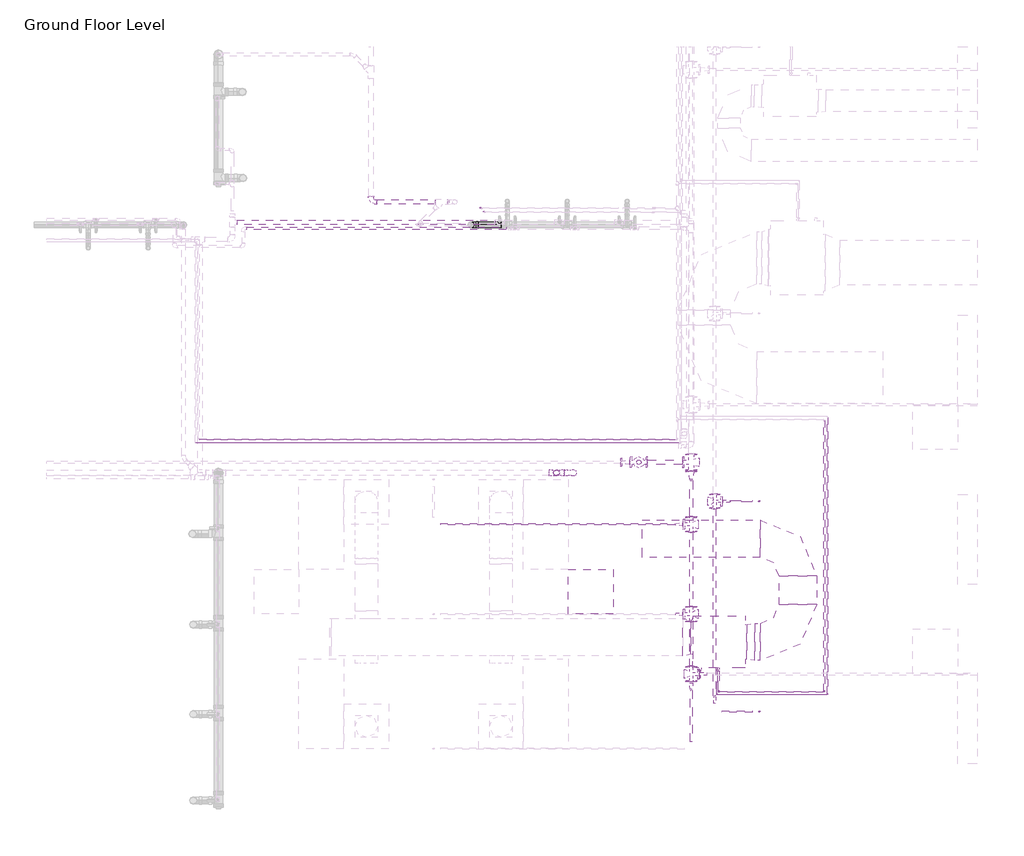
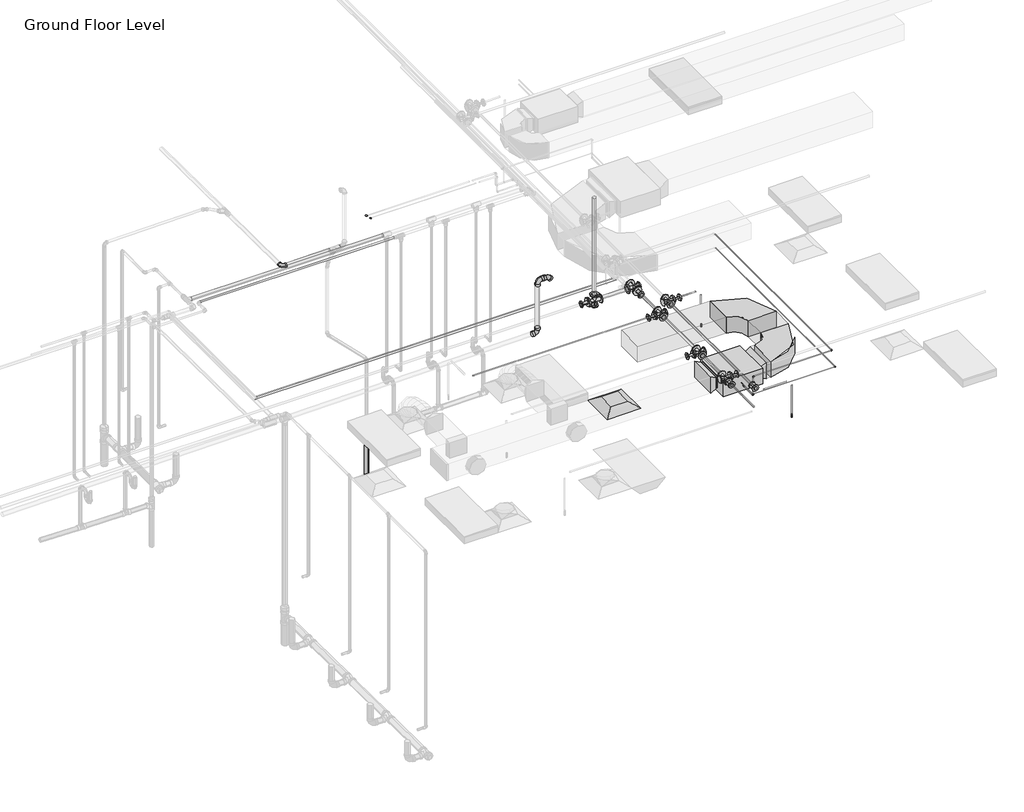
# One storey, part 15 of 74: 28 pipe segments, 26 pipe fittings, 4 duct fittings, 3 duct segments, 2 fire suppression terminals, 1 air terminal, 1 proxy.
"""IFC4 building model written with IfcOpenShell, lengths in millimetres."""

from ifc_helpers import new_model, si_unit, point, frame, frame_2d, origin, place, context, project, spatial, polyline, circle_curve, trimmed, segment, composite_curve, outline, extrude, transform, mapped, element, save
from components import m_return_diffuser_600_x_600_face_300_x_300_connection_ff221211, fcu_daikin_iu_bad131e0, m_rectangular_elbow_radius_1_w_abe20169, m_rectangular_transition_angle_45_degree_2b595dfe, m_rectangular_transition_angle_45_degree_f7c2916c, m_sprinkler_pendent_15_mm_pendent_06fcbd8e, m_bend_pvc_sch_40_dwv_standard_0eeb11e1, m_bend_pvc_sch_40_dwv_standard_123b45f9, m_bend_pvc_sch_40_dwv_standard_cec44c9e, m_bend_pvc_sch_40_dwv_standard_14735a05, m_elbow_generic_standard_a088f956, m_elbow_generic_standard_2a704253, m_elbow_generic_standard_bb5ffebe, m_elbow_generic_standard_f0c60a04, m_reducer_flanged_cs_class_150_standard_b6b67c23, m_reducer_flanged_cs_class_150_standard_ccf252ad, m_reducer_flanged_cs_class_150_standard_d42b2106, m_reducer_flanged_cs_class_150_standard_cc2a7c1d, m_reducer_flanged_cs_class_150_standard_a7631c35, m_reducer_flanged_cs_class_150_standard_678fb8eb, m_reducer_flanged_cs_class_150_standard_13db1923, m_tee_reducing_sanitary_pvc_sch_40_dwv_standard_b574f8c1, m_tee_round_base_flanged_cs_class_150_standard_dd767e04, m_tee_round_base_flanged_cs_class_150_standard_7e5987a1, m_tee_round_base_flanged_cs_class_150_standard_9c9133d0

model = new_model("IFC4")

# Units and contexts
model_context = context("Model", 3, world=origin())
ifc_project = project(units=[si_unit("LENGTHUNIT", "METRE", prefix="MILLI")], contexts=[model_context])

# Site, building, storey
site = spatial("IfcSite", under=ifc_project)
building = spatial("IfcBuilding", under=site)
storey = spatial("IfcBuildingStorey", under=building, Name="Ground Floor Level", Elevation=900.0)

# Air terminal
placement = place(None, origin())
m_return_diffuser_600_x_600_face_300_x_300_connection_shape = m_return_diffuser_600_x_600_face_300_x_300_connection_ff221211(model_context)
element("IfcAirTerminal", 1, ObjectType="M_Return Diffuser : 600 x 600 Face 300 x 300 Connection", at=placement, inside=storey, context=model_context, shape_type="MappedRepresentation", body=[
    mapped(m_return_diffuser_600_x_600_face_300_x_300_connection_shape, transform((4342.7672394, -37764.7846466, 3650.0), x_axis=(1.0, 0.0, 0.0), y_axis=(0.0, 1.0, 0.0), z_axis=(0.0, 0.0, 1.0))),
])

# Proxy
fcu_daikin_iu_shape = fcu_daikin_iu_bad131e0(model_context)
element("IfcBuildingElementProxy", 2, Name="FCU-DAIKIN IU : 4.5kW, 230V/50Hz/1Ph", ObjectType="FCU-DAIKIN IU : 4.5kW, 230V/50Hz/1Ph", at=placement, inside=storey, context=model_context, shape_type="MappedRepresentation", body=[
    mapped(fcu_daikin_iu_shape, transform((6052.7672394, -38436.1128682, 3934.0875), x_axis=(0.0, -1.0, 0.0), y_axis=(1.0, 0.0, 0.0), z_axis=(0.0, 0.0, 1.0))),
])

# Duct fittings
m_rectangular_elbow_radius_1_w_shape = m_rectangular_elbow_radius_1_w_abe20169(model_context)
element("IfcDuctFitting", 3, ObjectType="M_Rectangular Elbow - Radius : 1 W", at=placement, inside=storey, context=model_context, shape_type="MappedRepresentation", body=[
    mapped(m_rectangular_elbow_radius_1_w_shape, transform((7108.1672394, -38436.1128682, 4075.2875), x_axis=(1.0, 0.0, 0.0), y_axis=(0.0, 1.0, 0.0), z_axis=(0.0, 0.0, 1.0))),
])
element("IfcDuctFitting", 4, ObjectType="M_Rectangular Elbow - Radius : 1 W", at=placement, inside=storey, context=model_context, shape_type="MappedRepresentation", body=[
    mapped(m_rectangular_elbow_radius_1_w_shape, transform((7108.1672394, -37056.1128682, 4075.2875), x_axis=(0.0, 1.0, 0.0), y_axis=(-1.0, 0.0, 0.0), z_axis=(0.0, 0.0, 1.0))),
])
m_rectangular_transition_angle_45_degree_shape = m_rectangular_transition_angle_45_degree_2b595dfe(model_context)
element("IfcDuctFitting", 5, ObjectType="M_Rectangular Transition - Angle : 45 Degree", at=placement, inside=storey, context=model_context, shape_type="MappedRepresentation", body=[
    mapped(m_rectangular_transition_angle_45_degree_shape, transform((5677.3672394, -38372.6128682, 4100.0), x_axis=(-1.0, 0.0, 0.0), y_axis=(0.0, -1.0, 0.0), z_axis=(0.0, 0.0, 1.0))),
])
m_rectangular_transition_angle_45_degree_2_shape = m_rectangular_transition_angle_45_degree_f7c2916c(model_context)
element("IfcDuctFitting", 6, ObjectType="M_Rectangular Transition - Angle : 45 Degree", at=placement, inside=storey, context=model_context, shape_type="MappedRepresentation", body=[
    mapped(m_rectangular_transition_angle_45_degree_2_shape, transform((6428.1672394, -38436.1128682, 4075.2875), x_axis=(1.0, 0.0, 0.0), y_axis=(0.0, 1.0, 0.0), z_axis=(0.0, 0.0, 1.0))),
])

# Duct segments
element("IfcDuctSegment", 7, ObjectType="Radius Elbows / Taps", at=placement, inside=storey, context=model_context, shape_type="SweptSolid", body=[
    extrude(outline(polyline([(6531.6162906, -38686.1128682), (6531.6162906, -38186.1128682), (6608.1672394, -38186.1128682), (6608.1672394, -38686.1128682), (6531.6162906, -38686.1128682)])), frame((0.0, 0.0, 3925.2875), z_axis=(0.0, 0.0, 1.0), x_axis=(1.0, 0.0, 0.0)), (0.0, 0.0, 1.0), 300.0),
])
element("IfcDuctSegment", 8, ObjectType="Radius Elbows / Taps", at=placement, inside=storey, context=model_context, shape_type="SweptSolid", body=[
    extrude(outline(polyline([(7358.1672394, -37936.1128682), (6858.1672394, -37936.1128682), (6858.1672394, -37556.1128682), (7358.1672394, -37556.1128682), (7358.1672394, -37936.1128682)])), frame((0.0, 0.0, 3925.2875), z_axis=(0.0, 0.0, 1.0), x_axis=(1.0, 0.0, 0.0)), (0.0, 0.0, 1.0), 300.0),
])
element("IfcDuctSegment", 9, ObjectType="Radius Elbows / Taps", at=placement, inside=storey, context=model_context, shape_type="SweptSolid", body=[
    extrude(outline(polyline([(6608.1672394, -36806.1128682), (6608.1672394, -37306.1128682), (5028.1672394, -37306.1128682), (5028.1672394, -36806.1128682), (6608.1672394, -36806.1128682)])), frame((0.0, 0.0, 3925.2875), z_axis=(0.0, 0.0, 1.0), x_axis=(1.0, 0.0, 0.0)), (0.0, 0.0, 1.0), 300.0),
])

# Fire suppression terminals
m_sprinkler_pendent_15_mm_pendent_shape = m_sprinkler_pendent_15_mm_pendent_06fcbd8e(model_context)
element("IfcFireSuppressionTerminal", 10, ObjectType="M_Sprinkler - Pendent : 15 mm Pendent", at=placement, inside=storey, context=model_context, shape_type="MappedRepresentation", body=[
    mapped(m_sprinkler_pendent_15_mm_pendent_shape, transform((6592.5481019, -36555.4049984, 3650.0), x_axis=(1.0, 0.0, 0.0), y_axis=(0.0, 1.0, 0.0), z_axis=(0.0, 0.0, 1.0))),
])
element("IfcFireSuppressionTerminal", 11, ObjectType="M_Sprinkler - Pendent : 15 mm Pendent", at=placement, inside=storey, context=model_context, shape_type="MappedRepresentation", body=[
    mapped(m_sprinkler_pendent_15_mm_pendent_shape, transform((6592.5481019, -39366.4607861, 3650.0), x_axis=(1.0, 0.0, 0.0), y_axis=(0.0, 1.0, 0.0), z_axis=(0.0, 0.0, 1.0))),
])

# Pipe fittings
m_bend_pvc_sch_40_dwv_standard_shape = m_bend_pvc_sch_40_dwv_standard_0eeb11e1(model_context)
element("IfcPipeFitting", 12, ObjectType="M_Bend - PVC - Sch 40 - DWV : Standard", at=placement, inside=storey, context=model_context, shape_type="MappedRepresentation", body=[
    mapped(m_bend_pvc_sch_40_dwv_standard_shape, transform((3884.407481, -36176.1401483, 4209.2900099), x_axis=(0.9999500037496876, 0.0, 0.009999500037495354), y_axis=(-0.009999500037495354, 0.0, 0.9999500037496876), z_axis=(0.0, -1.0, 0.0))),
])
m_bend_pvc_sch_40_dwv_standard_2_shape = m_bend_pvc_sch_40_dwv_standard_123b45f9(model_context)
element("IfcPipeFitting", 13, ObjectType="M_Bend - PVC - Sch 40 - DWV : Standard", at=placement, inside=storey, context=model_context, shape_type="MappedRepresentation", body=[
    mapped(m_bend_pvc_sch_40_dwv_standard_2_shape, transform((1404.8829692, -32554.2948449, 4125.20016), x_axis=(0.0, -0.9999500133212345, 0.009998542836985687), y_axis=(0.9999500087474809, 9.997543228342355e-05, 0.00999850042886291), z_axis=(-0.009999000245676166, 0.0099980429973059, 0.9999000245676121))),
])
m_bend_pvc_sch_40_dwv_standard_3_shape = m_bend_pvc_sch_40_dwv_standard_cec44c9e(model_context)
element("IfcPipeFitting", 14, ObjectType="M_Bend - PVC - Sch 40 - DWV : Standard", at=placement, inside=storey, context=model_context, shape_type="MappedRepresentation", body=[
    mapped(m_bend_pvc_sch_40_dwv_standard_3_shape, transform((3884.3964821, -36176.1401483, 5200.5901311), x_axis=(0.0, 0.0, 1.0), y_axis=(1.0, 0.0, 0.0), z_axis=(0.0, 1.0, 0.0))),
])
m_bend_pvc_sch_40_dwv_standard_4_shape = m_bend_pvc_sch_40_dwv_standard_14735a05(model_context)
element("IfcPipeFitting", 15, ObjectType="M_Bend - PVC - Sch 40 - DWV : Standard", at=placement, inside=storey, context=model_context, shape_type="MappedRepresentation", body=[
    mapped(m_bend_pvc_sch_40_dwv_standard_4_shape, transform((4066.142039, -36176.1401483, 5198.6726756), x_axis=(0.9999500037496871, 0.0, -0.009999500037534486), y_axis=(-0.009999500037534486, 0.0, -0.9999500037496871), z_axis=(0.0, 1.0, 0.0))),
])
m_elbow_generic_standard_shape = m_elbow_generic_standard_a088f956(model_context)
element("IfcPipeFitting", 16, ObjectType="M_Elbow - Generic : Standard", at=placement, inside=storey, context=model_context, shape_type="MappedRepresentation", body=[
    mapped(m_elbow_generic_standard_shape, transform((6052.7672394, -39103.1206952, 4034.0875), x_axis=(0.0, -1.0, 0.0), y_axis=(0.0, 0.0, 1.0), z_axis=(-1.0, 0.0, 0.0))),
])
element("IfcPipeFitting", 17, ObjectType="M_Elbow - Generic : Standard", at=placement, inside=storey, context=model_context, shape_type="MappedRepresentation", body=[
    mapped(m_elbow_generic_standard_shape, transform((6052.7672394, -39103.1206952, 4390.0), x_axis=(0.0, 0.0, 1.0), y_axis=(1.0, 0.0, 0.0), z_axis=(0.0, 1.0, 0.0))),
])
element("IfcPipeFitting", 18, ObjectType="M_Elbow - Generic : Standard", at=placement, inside=storey, context=model_context, shape_type="MappedRepresentation", body=[
    mapped(m_elbow_generic_standard_shape, transform((7462.8951827, -39103.1206952, 4390.0), x_axis=(1.0, 0.0, 0.0), y_axis=(0.0, 1.0, 0.0), z_axis=(0.0, 0.0, 1.0))),
])
m_elbow_generic_standard_2_shape = m_elbow_generic_standard_2a704253(model_context)
element("IfcPipeFitting", 19, ObjectType="M_Elbow - Generic : Standard", at=placement, inside=storey, context=model_context, shape_type="MappedRepresentation", body=[
    mapped(m_elbow_generic_standard_2_shape, transform((7503.9904113, -39140.6009836, 4084.9), x_axis=(1.0, 0.0, 0.0), y_axis=(0.0, 1.0, 0.0), z_axis=(0.0, 0.0, 1.0))),
])
element("IfcPipeFitting", 20, ObjectType="M_Elbow - Generic : Standard", at=placement, inside=storey, context=model_context, shape_type="MappedRepresentation", body=[
    mapped(m_elbow_generic_standard_2_shape, transform((6027.7672393, -39140.6009836, 4084.9), x_axis=(0.0, -0.9999999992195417, 3.9508437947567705e-05), y_axis=(1.0000000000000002, 0.0, 0.0), z_axis=(0.0, 3.9508437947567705e-05, 0.9999999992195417))),
])
m_elbow_generic_standard_3_shape = m_elbow_generic_standard_bb5ffebe(model_context)
element("IfcPipeFitting", 21, ObjectType="M_Elbow - Generic : Standard", at=placement, inside=storey, context=model_context, shape_type="MappedRepresentation", body=[
    mapped(m_elbow_generic_standard_3_shape, transform((2867.2893107, -32638.716218, 4621.4908765), x_axis=(0.0, -1.0, 0.0), y_axis=(1.0, 0.0, 0.0), z_axis=(0.0, 0.0, 1.0))),
])
m_elbow_generic_standard_4_shape = m_elbow_generic_standard_f0c60a04(model_context)
element("IfcPipeFitting", 22, ObjectType="M_Elbow - Generic : Standard", at=placement, inside=storey, context=model_context, shape_type="MappedRepresentation", body=[
    mapped(m_elbow_generic_standard_4_shape, transform((2911.3621079, -32691.5527522, 4591.0863665), x_axis=(0.0, -1.0, 0.0), y_axis=(1.0, 0.0, 0.0), z_axis=(0.0, 0.0, 1.0))),
])
m_reducer_flanged_cs_class_150_standard_shape = m_reducer_flanged_cs_class_150_standard_b6b67c23(model_context)
element("IfcPipeFitting", 23, ObjectType="M_Reducer - Flanged - CS - Class 150 : Standard", at=placement, inside=storey, context=model_context, shape_type="MappedRepresentation", body=[
    mapped(m_reducer_flanged_cs_class_150_standard_shape, transform((5790.7160832, -38864.7846466, 4347.5), x_axis=(1.0, 0.0, 0.0), y_axis=(0.0, 0.0, 1.0), z_axis=(0.0, -1.0, 0.0))),
])
m_reducer_flanged_cs_class_150_standard_2_shape = m_reducer_flanged_cs_class_150_standard_ccf252ad(model_context)
element("IfcPipeFitting", 24, ObjectType="M_Reducer - Flanged - CS - Class 150 : Standard", at=placement, inside=storey, context=model_context, shape_type="MappedRepresentation", body=[
    mapped(m_reducer_flanged_cs_class_150_standard_2_shape, transform((5997.057812, -39159.4521923, 4290.0), x_axis=(0.0, -1.0, 0.0), y_axis=(1.0, 0.0, 0.0), z_axis=(0.0, 0.0, 1.0))),
])
m_reducer_flanged_cs_class_150_standard_3_shape = m_reducer_flanged_cs_class_150_standard_d42b2106(model_context)
element("IfcPipeFitting", 25, ObjectType="M_Reducer - Flanged - CS - Class 150 : Standard", at=placement, inside=storey, context=model_context, shape_type="MappedRepresentation", body=[
    mapped(m_reducer_flanged_cs_class_150_standard_3_shape, transform((6097.7664057, -36555.4049984, 4290.0), x_axis=(1.0, 0.0, 0.0), y_axis=(0.0, 0.0, -1.0), z_axis=(0.0, 1.0, 0.0))),
])
m_reducer_flanged_cs_class_150_standard_4_shape = m_reducer_flanged_cs_class_150_standard_cc2a7c1d(model_context)
element("IfcPipeFitting", 26, ObjectType="M_Reducer - Flanged - CS - Class 150 : Standard", at=placement, inside=storey, context=model_context, shape_type="MappedRepresentation", body=[
    mapped(m_reducer_flanged_cs_class_150_standard_4_shape, transform((5578.5188957, -38064.7846466, 4347.5), x_axis=(-1.0, 0.0, 0.0), y_axis=(0.0, 0.0, -1.0), z_axis=(0.0, -1.0, 0.0))),
])
m_reducer_flanged_cs_class_150_standard_5_shape = m_reducer_flanged_cs_class_150_standard_a7631c35(model_context)
element("IfcPipeFitting", 27, ObjectType="M_Reducer - Flanged - CS - Class 150 : Standard", at=placement, inside=storey, context=model_context, shape_type="MappedRepresentation", body=[
    mapped(m_reducer_flanged_cs_class_150_standard_5_shape, transform((4870.6174894, -36033.7985971, 4347.5), x_axis=(-1.0, 0.0, 0.0), y_axis=(0.0, -1.0, 0.0), z_axis=(0.0, 0.0, 1.0))),
])
m_reducer_flanged_cs_class_150_standard_6_shape = m_reducer_flanged_cs_class_150_standard_678fb8eb(model_context)
element("IfcPipeFitting", 28, ObjectType="M_Reducer - Flanged - CS - Class 150 : Standard", at=placement, inside=storey, context=model_context, shape_type="MappedRepresentation", body=[
    mapped(m_reducer_flanged_cs_class_150_standard_6_shape, transform((5578.5188957, -36864.7846466, 4347.5), x_axis=(-1.0, 0.0, 0.0), y_axis=(0.0, -1.0, 0.0), z_axis=(0.0, 0.0, 1.0))),
])
element("IfcPipeFitting", 29, ObjectType="M_Reducer - Flanged - CS - Class 150 : Standard", at=placement, inside=storey, context=model_context, shape_type="MappedRepresentation", body=[
    mapped(m_reducer_flanged_cs_class_150_standard_6_shape, transform((5684.6174894, -38970.8832404, 4347.5), x_axis=(0.0, -1.0, 0.0), y_axis=(1.0, 0.0, 0.0), z_axis=(0.0, 0.0, 1.0))),
])
m_reducer_flanged_cs_class_150_standard_7_shape = m_reducer_flanged_cs_class_150_standard_13db1923(model_context)
element("IfcPipeFitting", 30, ObjectType="M_Reducer - Flanged - CS - Class 150 : Standard", at=placement, inside=storey, context=model_context, shape_type="MappedRepresentation", body=[
    mapped(m_reducer_flanged_cs_class_150_standard_7_shape, transform((5684.6174894, -36147.7985971, 4347.5), x_axis=(0.0, -1.0, 0.0), y_axis=(1.0, 0.0, 0.0), z_axis=(0.0, 0.0, 1.0))),
])
m_tee_reducing_sanitary_pvc_sch_40_dwv_standard_shape = m_tee_reducing_sanitary_pvc_sch_40_dwv_standard_b574f8c1(model_context)
element("IfcPipeFitting", 31, ObjectType="M_Tee Reducing Sanitary - PVC - Sch 40 - DWV : Standard", at=placement, inside=storey, context=model_context, shape_type="MappedRepresentation", body=[
    mapped(m_tee_reducing_sanitary_pvc_sch_40_dwv_standard_shape, transform((2740.8154211, -32858.7119065, 701.6), x_axis=(0.0, 0.0, 1.0), y_axis=(-1.0, 0.0, 0.0), z_axis=(0.0, -1.0, 0.0))),
])
m_tee_round_base_flanged_cs_class_150_standard_shape = m_tee_round_base_flanged_cs_class_150_standard_dd767e04(model_context)
element("IfcPipeFitting", 32, ObjectType="M_Tee Round Base - Flanged - CS - Class 150 : Standard", at=placement, inside=storey, context=model_context, shape_type="MappedRepresentation", body=[
    mapped(m_tee_round_base_flanged_cs_class_150_standard_shape, transform((5684.6174894, -36033.7985971, 4347.5), x_axis=(0.0, 1.0, 0.0), y_axis=(1.0, 0.0, 0.0), z_axis=(0.0, 0.0, -1.0))),
])
element("IfcPipeFitting", 33, ObjectType="M_Tee Round Base - Flanged - CS - Class 150 : Standard", at=placement, inside=storey, context=model_context, shape_type="MappedRepresentation", body=[
    mapped(m_tee_round_base_flanged_cs_class_150_standard_shape, transform((4984.6174894, -36033.7985971, 4347.5), x_axis=(-1.0, 0.0, 0.0), y_axis=(0.0, 0.0, -1.0), z_axis=(0.0, -1.0, 0.0))),
])
m_tee_round_base_flanged_cs_class_150_standard_2_shape = m_tee_round_base_flanged_cs_class_150_standard_7e5987a1(model_context)
element("IfcPipeFitting", 34, ObjectType="M_Tee Round Base - Flanged - CS - Class 150 : Standard", at=placement, inside=storey, context=model_context, shape_type="MappedRepresentation", body=[
    mapped(m_tee_round_base_flanged_cs_class_150_standard_2_shape, transform((5997.057812, -36555.4049984, 4290.0), x_axis=(0.0, 1.0, 0.0), y_axis=(-1.0, 0.0, 0.0), z_axis=(0.0, 0.0, 1.0))),
])
m_tee_round_base_flanged_cs_class_150_standard_3_shape = m_tee_round_base_flanged_cs_class_150_standard_9c9133d0(model_context)
element("IfcPipeFitting", 35, ObjectType="M_Tee Round Base - Flanged - CS - Class 150 : Standard", at=placement, inside=storey, context=model_context, shape_type="MappedRepresentation", body=[
    mapped(m_tee_round_base_flanged_cs_class_150_standard_3_shape, transform((5684.6174894, -38064.7846466, 4347.5), x_axis=(0.0, 1.0, 0.0), y_axis=(1.0, 0.0, 0.0), z_axis=(0.0, 0.0, -1.0))),
])
element("IfcPipeFitting", 36, ObjectType="M_Tee Round Base - Flanged - CS - Class 150 : Standard", at=placement, inside=storey, context=model_context, shape_type="MappedRepresentation", body=[
    mapped(m_tee_round_base_flanged_cs_class_150_standard_3_shape, transform((5684.6174894, -38864.7846466, 4347.5), x_axis=(0.0, 1.0, 0.0), y_axis=(-1.0, 0.0, 0.0), z_axis=(0.0, 0.0, 1.0))),
])
element("IfcPipeFitting", 37, ObjectType="M_Tee Round Base - Flanged - CS - Class 150 : Standard", at=placement, inside=storey, context=model_context, shape_type="MappedRepresentation", body=[
    mapped(m_tee_round_base_flanged_cs_class_150_standard_3_shape, transform((5684.6174894, -36864.7846466, 4347.5), x_axis=(0.0, 1.0, 0.0), y_axis=(1.0, 0.0, 0.0), z_axis=(0.0, 0.0, -1.0))),
])

# Pipe segments
element("IfcPipeSegment", 38, ObjectType="CPVC", at=placement, inside=storey, context=model_context, shape_type="SweptSolid", body=[
    extrude(outline(composite_curve([segment(trimmed(circle_curve(frame_2d((-32824.9853451, 4300.0)), 30.1625), [point((-32855.1478451, 4300.0))], [point((-32824.9853451, 4330.1625))], False, "CARTESIAN"), True, "CONTINUOUS"), segment(trimmed(circle_curve(frame_2d((-32824.9853451, 4300.0)), 30.1625), [point((-32824.9853451, 4330.1625))], [point((-32794.8228451, 4300.0))], False, "CARTESIAN"), True, "CONTINUOUS"), segment(trimmed(circle_curve(frame_2d((-32824.9853451, 4300.0)), 30.1625), [point((-32794.8228451, 4300.0))], [point((-32824.9853451, 4269.8375))], False, "CARTESIAN"), True, "CONTINUOUS"), segment(trimmed(circle_curve(frame_2d((-32824.9853451, 4300.0)), 30.1625), [point((-32824.9853451, 4269.8375))], [point((-32855.1478451, 4300.0))], False, "CARTESIAN"), True, "CONTINUOUS")], self_intersect=False)), frame((-380.5577605, 0.0, 0.0), z_axis=(1.0, 0.0, 0.0), x_axis=(0.0, 1.0, 0.0)), (0.0, 0.0, 1.0), 3436.3525188),
])
element("IfcPipeSegment", 39, ObjectType="CPVC", at=placement, inside=storey, context=model_context, shape_type="SweptSolid", body=[
    extrude(outline(composite_curve([segment(trimmed(circle_curve(frame_2d((-32905.870708, 4250.0)), 16.7005), [point((-32889.170208, 4250.0))], [point((-32905.870708, 4233.2995))], False, "CARTESIAN"), True, "CONTINUOUS"), segment(trimmed(circle_curve(frame_2d((-32905.870708, 4250.0)), 16.7005), [point((-32905.870708, 4233.2995))], [point((-32922.571208, 4250.0))], False, "CARTESIAN"), True, "CONTINUOUS"), segment(trimmed(circle_curve(frame_2d((-32905.870708, 4250.0)), 16.7005), [point((-32922.571208, 4250.0))], [point((-32905.870708, 4266.7005))], False, "CARTESIAN"), True, "CONTINUOUS"), segment(trimmed(circle_curve(frame_2d((-32905.870708, 4250.0)), 16.7005), [point((-32905.870708, 4266.7005))], [point((-32889.170208, 4250.0))], False, "CARTESIAN"), True, "CONTINUOUS")], self_intersect=False)), frame((-256.1798698, 0.0, 0.0), z_axis=(1.0, 0.0, 0.0), x_axis=(0.0, 1.0, 0.0)), (0.0, 0.0, 1.0), 3467.1855943),
])
element("IfcPipeSegment", 40, ObjectType="Copper", at=placement, inside=storey, context=model_context, shape_type="SweptSolid", body=[
    extrude(outline(composite_curve([segment(trimmed(circle_curve(frame_2d((-35730.466218, 4390.0)), 6.5), [point((-35723.966218, 4390.0))], [point((-35730.466218, 4383.5))], False, "CARTESIAN"), True, "CONTINUOUS"), segment(trimmed(circle_curve(frame_2d((-35730.466218, 4390.0)), 6.5), [point((-35730.466218, 4383.5))], [point((-35736.966218, 4390.0))], False, "CARTESIAN"), True, "CONTINUOUS"), segment(trimmed(circle_curve(frame_2d((-35730.466218, 4390.0)), 6.5), [point((-35736.966218, 4390.0))], [point((-35730.466218, 4396.5))], False, "CARTESIAN"), True, "CONTINUOUS"), segment(trimmed(circle_curve(frame_2d((-35730.466218, 4390.0)), 6.5), [point((-35730.466218, 4396.5))], [point((-35723.966218, 4390.0))], False, "CARTESIAN"), True, "CONTINUOUS")], self_intersect=False)), frame((-882.8173173, 0.0, 0.0), z_axis=(1.0, 0.0, 0.0), x_axis=(0.0, 1.0, 0.0)), (0.0, 0.0, 1.0), 6366.425),
])
element("IfcPipeSegment", 41, ObjectType="Copper", at=placement, inside=storey, context=model_context, shape_type="SweptSolid", body=[
    extrude(outline(composite_curve([segment(trimmed(circle_curve(frame_2d((-35773.5402522, 4377.5)), 3.35), [point((-35770.1902522, 4377.5))], [point((-35773.5402522, 4374.15))], False, "CARTESIAN"), True, "CONTINUOUS"), segment(trimmed(circle_curve(frame_2d((-35773.5402522, 4377.5)), 3.35), [point((-35773.5402522, 4374.15))], [point((-35776.8902522, 4377.5))], False, "CARTESIAN"), True, "CONTINUOUS"), segment(trimmed(circle_curve(frame_2d((-35773.5402522, 4377.5)), 3.35), [point((-35776.8902522, 4377.5))], [point((-35773.5402522, 4380.85))], False, "CARTESIAN"), True, "CONTINUOUS"), segment(trimmed(circle_curve(frame_2d((-35773.5402522, 4377.5)), 3.35), [point((-35773.5402522, 4380.85))], [point((-35770.1902522, 4377.5))], False, "CARTESIAN"), True, "CONTINUOUS")], self_intersect=False)), frame((-929.8720887, 0.0, 0.0), z_axis=(1.0, 0.0, 0.0), x_axis=(0.0, 1.0, 0.0)), (0.0, 0.0, 1.0), 6462.725),
])
element("IfcPipeSegment", 42, ObjectType="Copper", at=placement, inside=storey, context=model_context, shape_type="SweptSolid", body=[
    extrude(outline(composite_curve([segment(trimmed(circle_curve(frame_2d((4390.0, 7462.8951827)), 6.5), [point((4390.0, 7456.3951827))], [point((4383.5, 7462.8951827))], False, "CARTESIAN"), True, "CONTINUOUS"), segment(trimmed(circle_curve(frame_2d((4390.0, 7462.8951827)), 6.5), [point((4383.5, 7462.8951827))], [point((4390.0, 7469.3951827))], False, "CARTESIAN"), True, "CONTINUOUS"), segment(trimmed(circle_curve(frame_2d((4390.0, 7462.8951827)), 6.5), [point((4390.0, 7469.3951827))], [point((4396.5, 7462.8951827))], False, "CARTESIAN"), True, "CONTINUOUS"), segment(trimmed(circle_curve(frame_2d((4390.0, 7462.8951827)), 6.5), [point((4396.5, 7462.8951827))], [point((4390.0, 7456.3951827))], False, "CARTESIAN"), True, "CONTINUOUS")], self_intersect=False)), frame((0.0, -39088.8331952, 0.0), z_axis=(0.0, 1.0, 0.0), x_axis=(0.0, 0.0, 1.0)), (0.0, 0.0, 1.0), 3611.425),
])
element("IfcPipeSegment", 43, ObjectType="Copper", at=placement, inside=storey, context=model_context, shape_type="SweptSolid", body=[
    extrude(outline(composite_curve([segment(trimmed(circle_curve(frame_2d((-39103.1206952, 4390.0)), 6.5), [point((-39109.6206952, 4390.0))], [point((-39103.1206952, 4396.5))], False, "CARTESIAN"), True, "CONTINUOUS"), segment(trimmed(circle_curve(frame_2d((-39103.1206952, 4390.0)), 6.5), [point((-39103.1206952, 4396.5))], [point((-39096.6206952, 4390.0))], False, "CARTESIAN"), True, "CONTINUOUS"), segment(trimmed(circle_curve(frame_2d((-39103.1206952, 4390.0)), 6.5), [point((-39096.6206952, 4390.0))], [point((-39103.1206952, 4383.5))], False, "CARTESIAN"), True, "CONTINUOUS"), segment(trimmed(circle_curve(frame_2d((-39103.1206952, 4390.0)), 6.5), [point((-39103.1206952, 4383.5))], [point((-39109.6206952, 4390.0))], False, "CARTESIAN"), True, "CONTINUOUS")], self_intersect=False)), frame((6067.0547394, 0.0, 0.0), z_axis=(1.0, 0.0, 0.0), x_axis=(0.0, 1.0, 0.0)), (0.0, 0.0, 1.0), 1381.5529433),
])
element("IfcPipeSegment", 44, ObjectType="Copper", at=placement, inside=storey, context=model_context, shape_type="SweptSolid", body=[
    extrude(outline(composite_curve([segment(trimmed(circle_curve(frame_2d((4084.9, 7503.9904113)), 3.35), [point((4084.9, 7500.6404113))], [point((4081.55, 7503.9904113))], False, "CARTESIAN"), True, "CONTINUOUS"), segment(trimmed(circle_curve(frame_2d((4084.9, 7503.9904113)), 3.35), [point((4081.55, 7503.9904113))], [point((4084.9, 7507.3404113))], False, "CARTESIAN"), True, "CONTINUOUS"), segment(trimmed(circle_curve(frame_2d((4084.9, 7503.9904113)), 3.35), [point((4084.9, 7507.3404113))], [point((4088.25, 7503.9904113))], False, "CARTESIAN"), True, "CONTINUOUS"), segment(trimmed(circle_curve(frame_2d((4084.9, 7503.9904113)), 3.35), [point((4088.25, 7503.9904113))], [point((4084.9, 7500.6404113))], False, "CARTESIAN"), True, "CONTINUOUS")], self_intersect=False)), frame((0.0, -39129.4634836, 0.0), z_axis=(0.0, 1.0, 0.0), x_axis=(0.0, 0.0, 1.0)), (0.0, 0.0, 1.0), 3697.725),
])
element("IfcPipeSegment", 45, ObjectType="Copper", at=placement, inside=storey, context=model_context, shape_type="SweptSolid", body=[
    extrude(outline(composite_curve([segment(trimmed(circle_curve(frame_2d((-39140.6009836, 4084.9)), 3.35), [point((-39137.2509836, 4084.9))], [point((-39140.6009836, 4081.55))], False, "CARTESIAN"), True, "CONTINUOUS"), segment(trimmed(circle_curve(frame_2d((-39140.6009836, 4084.9)), 3.35), [point((-39140.6009836, 4081.55))], [point((-39143.9509836, 4084.9))], False, "CARTESIAN"), True, "CONTINUOUS"), segment(trimmed(circle_curve(frame_2d((-39140.6009836, 4084.9)), 3.35), [point((-39143.9509836, 4084.9))], [point((-39140.6009836, 4088.25))], False, "CARTESIAN"), True, "CONTINUOUS"), segment(trimmed(circle_curve(frame_2d((-39140.6009836, 4084.9)), 3.35), [point((-39140.6009836, 4088.25))], [point((-39137.2509836, 4084.9))], False, "CARTESIAN"), True, "CONTINUOUS")], self_intersect=False)), frame((6038.9047393, 0.0, 0.0), z_axis=(1.0, 0.0, 0.0), x_axis=(0.0, 1.0, 0.0)), (0.0, 0.0, 1.0), 1453.948172),
])
element("IfcPipeSegment", 46, ObjectType="Copper", at=placement, inside=storey, context=model_context, shape_type="SweptSolid", body=[
    extrude(outline(composite_curve([segment(trimmed(circle_curve(frame_2d((0.0, -3.35)), 3.35), [point((0.0, -6.7))], [point((-3.35, -3.35))], False, "CARTESIAN"), True, "CONTINUOUS"), segment(trimmed(circle_curve(frame_2d((0.0, -3.35)), 3.35), [point((-3.35, -3.35))], [point((0.0, 0.0))], False, "CARTESIAN"), True, "CONTINUOUS"), segment(trimmed(circle_curve(frame_2d((0.0, -3.35)), 3.35), [point((0.0, 0.0))], [point((3.35, -3.35))], False, "CARTESIAN"), True, "CONTINUOUS"), segment(trimmed(circle_curve(frame_2d((0.0, -3.35)), 3.35), [point((3.35, -3.35))], [point((0.0, -6.7))], False, "CARTESIAN"), True, "CONTINUOUS")], self_intersect=False)), frame((6024.4172393, -38824.2128682, 4084.8875), z_axis=(0.0, -0.9999999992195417, 3.950843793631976e-05), x_axis=(0.0, 3.950843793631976e-05, 0.9999999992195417)), (0.0, 0.0, 1.0), 305.2506156),
])
element("IfcPipeSegment", 47, ObjectType="Copper", at=placement, inside=storey, context=model_context, shape_type="SweptSolid", body=[
    extrude(outline(composite_curve([segment(trimmed(circle_curve(frame_2d((4034.0875, 6052.7672394)), 6.5), [point((4034.0875, 6046.2672394))], [point((4027.5875, 6052.7672394))], False, "CARTESIAN"), True, "CONTINUOUS"), segment(trimmed(circle_curve(frame_2d((4034.0875, 6052.7672394)), 6.5), [point((4027.5875, 6052.7672394))], [point((4034.0875, 6059.2672394))], False, "CARTESIAN"), True, "CONTINUOUS"), segment(trimmed(circle_curve(frame_2d((4034.0875, 6052.7672394)), 6.5), [point((4034.0875, 6059.2672394))], [point((4040.5875, 6052.7672394))], False, "CARTESIAN"), True, "CONTINUOUS"), segment(trimmed(circle_curve(frame_2d((4034.0875, 6052.7672394)), 6.5), [point((4040.5875, 6052.7672394))], [point((4034.0875, 6046.2672394))], False, "CARTESIAN"), True, "CONTINUOUS")], self_intersect=False)), frame((0.0, -39088.8331952, 0.0), z_axis=(0.0, 1.0, 0.0), x_axis=(0.0, 0.0, 1.0)), (0.0, 0.0, 1.0), 264.6203269),
])
element("IfcPipeSegment", 48, ObjectType="Copper", at=placement, inside=storey, context=model_context, shape_type="SweptSolid", body=[
    extrude(outline(composite_curve([segment(trimmed(circle_curve(frame_2d((6052.7672394, -39103.1206952)), 6.5), [point((6046.2672394, -39103.1206952))], [point((6052.7672394, -39096.6206952))], False, "CARTESIAN"), True, "CONTINUOUS"), segment(trimmed(circle_curve(frame_2d((6052.7672394, -39103.1206952)), 6.5), [point((6052.7672394, -39096.6206952))], [point((6059.2672394, -39103.1206952))], False, "CARTESIAN"), True, "CONTINUOUS"), segment(trimmed(circle_curve(frame_2d((6052.7672394, -39103.1206952)), 6.5), [point((6059.2672394, -39103.1206952))], [point((6052.7672394, -39109.6206952))], False, "CARTESIAN"), True, "CONTINUOUS"), segment(trimmed(circle_curve(frame_2d((6052.7672394, -39103.1206952)), 6.5), [point((6052.7672394, -39109.6206952))], [point((6046.2672394, -39103.1206952))], False, "CARTESIAN"), True, "CONTINUOUS")], self_intersect=False)), frame((0.0, 0.0, 4048.375), z_axis=(0.0, 0.0, 1.0), x_axis=(1.0, 0.0, 0.0)), (0.0, 0.0, 1.0), 327.3375),
])
element("IfcPipeSegment", 49, ObjectType="PVC - DWV", at=placement, inside=storey, context=model_context, shape_type="SweptSolid", body=[
    extrude(outline(composite_curve([segment(trimmed(circle_curve(frame_2d((0.0, -36.5125)), 36.5125), [point((0.0, 0.0))], [point((36.5125, -36.5125))], False, "CARTESIAN"), True, "CONTINUOUS"), segment(trimmed(circle_curve(frame_2d((0.0, -36.5125)), 36.5125), [point((36.5125, -36.5125))], [point((0.0, -73.025))], False, "CARTESIAN"), True, "CONTINUOUS"), segment(trimmed(circle_curve(frame_2d((0.0, -36.5125)), 36.5125), [point((0.0, -73.025))], [point((-36.5125, -36.5125))], False, "CARTESIAN"), True, "CONTINUOUS"), segment(trimmed(circle_curve(frame_2d((0.0, -36.5125)), 36.5125), [point((-36.5125, -36.5125))], [point((0.0, 0.0))], False, "CARTESIAN"), True, "CONTINUOUS")], self_intersect=False)), frame((2840.7783918, -32822.1994065, 702.5996297), z_axis=(0.9999500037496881, 0.0, 0.0099995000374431), x_axis=(0.0099995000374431, 0.0, -0.9999500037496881)), (0.0, 0.0, 1.0), 306.9624682),
])
element("IfcPipeSegment", 50, ObjectType="PVC - DWV", at=placement, inside=storey, context=model_context, shape_type="SweptSolid", body=[
    extrude(outline(composite_curve([segment(trimmed(circle_curve(frame_2d((2740.8154211, -32858.7119065)), 36.5125), [point((2777.3279211, -32858.7119065))], [point((2740.8154211, -32895.2244065))], False, "CARTESIAN"), True, "CONTINUOUS"), segment(trimmed(circle_curve(frame_2d((2740.8154211, -32858.7119065)), 36.5125), [point((2740.8154211, -32895.2244065))], [point((2704.3029211, -32858.7119065))], False, "CARTESIAN"), True, "CONTINUOUS"), segment(trimmed(circle_curve(frame_2d((2740.8154211, -32858.7119065)), 36.5125), [point((2704.3029211, -32858.7119065))], [point((2740.8154211, -32822.1994065))], False, "CARTESIAN"), True, "CONTINUOUS"), segment(trimmed(circle_curve(frame_2d((2740.8154211, -32858.7119065)), 36.5125), [point((2740.8154211, -32822.1994065))], [point((2777.3279211, -32858.7119065))], False, "CARTESIAN"), True, "CONTINUOUS")], self_intersect=False)), frame((0.0, 0.0, -100.0), z_axis=(0.0, 0.0, 1.0), x_axis=(1.0, 0.0, 0.0)), (0.0, 0.0, 1.0), 703.7868813),
])
element("IfcPipeSegment", 51, ObjectType="PVC - DWV", at=placement, inside=storey, context=model_context, shape_type="SweptSolid", body=[
    extrude(outline(composite_curve([segment(trimmed(circle_curve(frame_2d((0.0, 30.1625)), 30.1625), [point((0.0, 0.0))], [point((-30.1625, 30.1625))], False, "CARTESIAN"), True, "CONTINUOUS"), segment(trimmed(circle_curve(frame_2d((0.0, 30.1625)), 30.1625), [point((-30.1625, 30.1625))], [point((0.0, 60.325))], False, "CARTESIAN"), True, "CONTINUOUS"), segment(trimmed(circle_curve(frame_2d((0.0, 30.1625)), 30.1625), [point((0.0, 60.325))], [point((30.1625, 30.1625))], False, "CARTESIAN"), True, "CONTINUOUS"), segment(trimmed(circle_curve(frame_2d((0.0, 30.1625)), 30.1625), [point((30.1625, 30.1625))], [point((0.0, 0.0))], False, "CARTESIAN"), True, "CONTINUOUS")], self_intersect=False)), frame((2429.196344, -32584.4573449, 4135.4432937), z_axis=(0.9999500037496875, 0.0, 0.009999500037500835), x_axis=(0.009999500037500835, 0.0, -0.9999500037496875)), (0.0, 0.0, 1.0), 17.6645023),
])
element("IfcPipeSegment", 52, ObjectType="PVC - DWV", at=placement, inside=storey, context=model_context, shape_type="SweptSolid", body=[
    extrude(outline(composite_curve([segment(trimmed(circle_curve(frame_2d((0.0, 30.1625)), 30.1625), [point((0.0, 0.0))], [point((-30.1625, 30.1625))], False, "CARTESIAN"), True, "CONTINUOUS"), segment(trimmed(circle_curve(frame_2d((0.0, 30.1625)), 30.1625), [point((-30.1625, 30.1625))], [point((0.0, 60.325))], False, "CARTESIAN"), True, "CONTINUOUS"), segment(trimmed(circle_curve(frame_2d((0.0, 30.1625)), 30.1625), [point((0.0, 60.325))], [point((30.1625, 30.1625))], False, "CARTESIAN"), True, "CONTINUOUS"), segment(trimmed(circle_curve(frame_2d((0.0, 30.1625)), 30.1625), [point((30.1625, 30.1625))], [point((0.0, 0.0))], False, "CARTESIAN"), True, "CONTINUOUS")], self_intersect=False)), frame((1482.6792795, -32584.4573449, 4125.9781231), z_axis=(0.9999500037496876, 0.0, 0.009999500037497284), x_axis=(0.009999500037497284, 0.0, -0.9999500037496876)), (0.0, 0.0, 1.0), 778.0425639),
])
element("IfcPipeSegment", 53, ObjectType="PVC - DWV", at=placement, inside=storey, context=model_context, shape_type="SweptSolid", body=[
    extrude(outline(composite_curve([segment(trimmed(circle_curve(frame_2d((0.0, 36.5125)), 36.5125), [point((-36.5125, 36.5125))], [point((0.0, 73.025))], False, "CARTESIAN"), True, "CONTINUOUS"), segment(trimmed(circle_curve(frame_2d((0.0, 36.5125)), 36.5125), [point((0.0, 73.025))], [point((36.5125, 36.5125))], False, "CARTESIAN"), True, "CONTINUOUS"), segment(trimmed(circle_curve(frame_2d((0.0, 36.5125)), 36.5125), [point((36.5125, 36.5125))], [point((0.0, 0.0))], False, "CARTESIAN"), True, "CONTINUOUS"), segment(trimmed(circle_curve(frame_2d((0.0, 36.5125)), 36.5125), [point((0.0, 0.0))], [point((-36.5125, 36.5125))], False, "CARTESIAN"), True, "CONTINUOUS")], self_intersect=False)), frame((3884.407481, -36212.6526483, 4308.3040724), z_axis=(-1.386523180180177e-05, 0.0, 0.9999999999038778), x_axis=(0.9999999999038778, 0.0, 1.386523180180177e-05)), (0.0, 0.0, 1.0), 793.2719963),
])
element("IfcPipeSegment", 54, ObjectType="Steel flanged", at=placement, inside=storey, context=model_context, shape_type="SweptSolid", body=[
    extrude(outline(composite_curve([segment(trimmed(circle_curve(frame_2d((6592.5481019, -36555.4049984)), 10.668), [point((6581.8801019, -36555.4049984))], [point((6592.5481019, -36544.7369984))], False, "CARTESIAN"), True, "CONTINUOUS"), segment(trimmed(circle_curve(frame_2d((6592.5481019, -36555.4049984)), 10.668), [point((6592.5481019, -36544.7369984))], [point((6603.2161019, -36555.4049984))], False, "CARTESIAN"), True, "CONTINUOUS"), segment(trimmed(circle_curve(frame_2d((6592.5481019, -36555.4049984)), 10.668), [point((6603.2161019, -36555.4049984))], [point((6592.5481019, -36566.0729984))], False, "CARTESIAN"), True, "CONTINUOUS"), segment(trimmed(circle_curve(frame_2d((6592.5481019, -36555.4049984)), 10.668), [point((6592.5481019, -36566.0729984))], [point((6581.8801019, -36555.4049984))], False, "CARTESIAN"), True, "CONTINUOUS")], self_intersect=False)), frame((0.0, 0.0, 3650.0), z_axis=(0.0, 0.0, 1.0), x_axis=(1.0, 0.0, 0.0)), (0.0, 0.0, 1.0), 546.9914062),
])
element("IfcPipeSegment", 55, ObjectType="Steel flanged", at=placement, inside=storey, context=model_context, shape_type="SweptSolid", body=[
    extrude(outline(composite_curve([segment(trimmed(circle_curve(frame_2d((-36555.4049984, 4290.0)), 10.668), [point((-36544.7369984, 4290.0))], [point((-36555.4049984, 4279.332))], False, "CARTESIAN"), True, "CONTINUOUS"), segment(trimmed(circle_curve(frame_2d((-36555.4049984, 4290.0)), 10.668), [point((-36555.4049984, 4279.332))], [point((-36566.0729984, 4290.0))], False, "CARTESIAN"), True, "CONTINUOUS"), segment(trimmed(circle_curve(frame_2d((-36555.4049984, 4290.0)), 10.668), [point((-36566.0729984, 4290.0))], [point((-36555.4049984, 4300.668))], False, "CARTESIAN"), True, "CONTINUOUS"), segment(trimmed(circle_curve(frame_2d((-36555.4049984, 4290.0)), 10.668), [point((-36555.4049984, 4300.668))], [point((-36544.7369984, 4290.0))], False, "CARTESIAN"), True, "CONTINUOUS")], self_intersect=False)), frame((6211.7664057, 0.0, 0.0), z_axis=(1.0, 0.0, 0.0), x_axis=(0.0, 1.0, 0.0)), (0.0, 0.0, 1.0), 287.7731025),
])
element("IfcPipeSegment", 56, ObjectType="Steel flanged", at=placement, inside=storey, context=model_context, shape_type="SweptSolid", body=[
    extrude(outline(composite_curve([segment(trimmed(circle_curve(frame_2d((6592.5481019, -39366.4607861)), 10.668), [point((6581.8801019, -39366.4607861))], [point((6592.5481019, -39355.7927861))], False, "CARTESIAN"), True, "CONTINUOUS"), segment(trimmed(circle_curve(frame_2d((6592.5481019, -39366.4607861)), 10.668), [point((6592.5481019, -39355.7927861))], [point((6603.2161019, -39366.4607861))], False, "CARTESIAN"), True, "CONTINUOUS"), segment(trimmed(circle_curve(frame_2d((6592.5481019, -39366.4607861)), 10.668), [point((6603.2161019, -39366.4607861))], [point((6592.5481019, -39377.1287861))], False, "CARTESIAN"), True, "CONTINUOUS"), segment(trimmed(circle_curve(frame_2d((6592.5481019, -39366.4607861)), 10.668), [point((6592.5481019, -39377.1287861))], [point((6581.8801019, -39366.4607861))], False, "CARTESIAN"), True, "CONTINUOUS")], self_intersect=False)), frame((0.0, 0.0, 3650.0), z_axis=(0.0, 0.0, 1.0), x_axis=(1.0, 0.0, 0.0)), (0.0, 0.0, 1.0), 546.9914062),
])
element("IfcPipeSegment", 57, ObjectType="Steel flanged", at=placement, inside=storey, context=model_context, shape_type="SweptSolid", body=[
    extrude(outline(composite_curve([segment(trimmed(circle_curve(frame_2d((-39366.4607861, 4290.0)), 10.668), [point((-39355.7927861, 4290.0))], [point((-39366.4607861, 4279.332))], False, "CARTESIAN"), True, "CONTINUOUS"), segment(trimmed(circle_curve(frame_2d((-39366.4607861, 4290.0)), 10.668), [point((-39366.4607861, 4279.332))], [point((-39377.1287861, 4290.0))], False, "CARTESIAN"), True, "CONTINUOUS"), segment(trimmed(circle_curve(frame_2d((-39366.4607861, 4290.0)), 10.668), [point((-39377.1287861, 4290.0))], [point((-39366.4607861, 4300.668))], False, "CARTESIAN"), True, "CONTINUOUS"), segment(trimmed(circle_curve(frame_2d((-39366.4607861, 4290.0)), 10.668), [point((-39366.4607861, 4300.668))], [point((-39355.7927861, 4290.0))], False, "CARTESIAN"), True, "CONTINUOUS")], self_intersect=False)), frame((6090.0664057, 0.0, 0.0), z_axis=(1.0, 0.0, 0.0), x_axis=(0.0, 1.0, 0.0)), (0.0, 0.0, 1.0), 409.4731025),
])
element("IfcPipeSegment", 58, ObjectType="Steel flanged", at=placement, inside=storey, context=model_context, shape_type="SweptSolid", body=[
    extrude(outline(composite_curve([segment(trimmed(circle_curve(frame_2d((4290.0, 5997.057812)), 16.7005), [point((4290.0, 5980.357312))], [point((4273.2995, 5997.057812))], False, "CARTESIAN"), True, "CONTINUOUS"), segment(trimmed(circle_curve(frame_2d((4290.0, 5997.057812)), 16.7005), [point((4273.2995, 5997.057812))], [point((4290.0, 6013.758312))], False, "CARTESIAN"), True, "CONTINUOUS"), segment(trimmed(circle_curve(frame_2d((4290.0, 5997.057812)), 16.7005), [point((4290.0, 6013.758312))], [point((4306.7005, 5997.057812))], False, "CARTESIAN"), True, "CONTINUOUS"), segment(trimmed(circle_curve(frame_2d((4290.0, 5997.057812)), 16.7005), [point((4306.7005, 5997.057812))], [point((4290.0, 5980.357312))], False, "CARTESIAN"), True, "CONTINUOUS")], self_intersect=False)), frame((0.0, -39159.4521923, 0.0), z_axis=(0.0, 1.0, 0.0), x_axis=(0.0, 0.0, 1.0)), (0.0, 0.0, 1.0), 2503.3386002),
])
element("IfcPipeSegment", 59, ObjectType="Steel flanged", at=placement, inside=storey, context=model_context, shape_type="SweptSolid", body=[
    extrude(outline(composite_curve([segment(trimmed(circle_curve(frame_2d((-36033.7985971, 4347.5)), 30.1625), [point((-36063.9610971, 4347.5))], [point((-36033.7985971, 4377.6625))], False, "CARTESIAN"), True, "CONTINUOUS"), segment(trimmed(circle_curve(frame_2d((-36033.7985971, 4347.5)), 30.1625), [point((-36033.7985971, 4377.6625))], [point((-36003.6360971, 4347.5))], False, "CARTESIAN"), True, "CONTINUOUS"), segment(trimmed(circle_curve(frame_2d((-36033.7985971, 4347.5)), 30.1625), [point((-36003.6360971, 4347.5))], [point((-36033.7985971, 4317.3375))], False, "CARTESIAN"), True, "CONTINUOUS"), segment(trimmed(circle_curve(frame_2d((-36033.7985971, 4347.5)), 30.1625), [point((-36033.7985971, 4317.3375))], [point((-36063.9610971, 4347.5))], False, "CARTESIAN"), True, "CONTINUOUS")], self_intersect=False)), frame((5098.6174894, 0.0, 0.0), z_axis=(1.0, 0.0, 0.0), x_axis=(0.0, 1.0, 0.0)), (0.0, 0.0, 1.0), 472.0),
])
element("IfcPipeSegment", 60, ObjectType="Steel flanged", at=placement, inside=storey, context=model_context, shape_type="SweptSolid", body=[
    extrude(outline(composite_curve([segment(trimmed(circle_curve(frame_2d((4984.6174894, -36033.7985971)), 30.1625), [point((4954.4549894, -36033.7985971))], [point((4984.6174894, -36003.6360971))], False, "CARTESIAN"), True, "CONTINUOUS"), segment(trimmed(circle_curve(frame_2d((4984.6174894, -36033.7985971)), 30.1625), [point((4984.6174894, -36003.6360971))], [point((5014.7799894, -36033.7985971))], False, "CARTESIAN"), True, "CONTINUOUS"), segment(trimmed(circle_curve(frame_2d((4984.6174894, -36033.7985971)), 30.1625), [point((5014.7799894, -36033.7985971))], [point((4984.6174894, -36063.9610971))], False, "CARTESIAN"), True, "CONTINUOUS"), segment(trimmed(circle_curve(frame_2d((4984.6174894, -36033.7985971)), 30.1625), [point((4984.6174894, -36063.9610971))], [point((4954.4549894, -36033.7985971))], False, "CARTESIAN"), True, "CONTINUOUS")], self_intersect=False)), frame((0.0, 0.0, 4461.5), z_axis=(0.0, 0.0, 1.0), x_axis=(1.0, 0.0, 0.0)), (0.0, 0.0, 1.0), 1824.5),
])
element("IfcPipeSegment", 61, ObjectType="Steel flanged", at=placement, inside=storey, context=model_context, shape_type="SweptSolid", body=[
    extrude(outline(composite_curve([segment(trimmed(circle_curve(frame_2d((4347.5, 5684.6174894)), 21.082), [point((4347.5, 5663.5354894))], [point((4326.418, 5684.6174894))], False, "CARTESIAN"), True, "CONTINUOUS"), segment(trimmed(circle_curve(frame_2d((4347.5, 5684.6174894)), 21.082), [point((4326.418, 5684.6174894))], [point((4347.5, 5705.6994894))], False, "CARTESIAN"), True, "CONTINUOUS"), segment(trimmed(circle_curve(frame_2d((4347.5, 5684.6174894)), 21.082), [point((4347.5, 5705.6994894))], [point((4368.582, 5684.6174894))], False, "CARTESIAN"), True, "CONTINUOUS"), segment(trimmed(circle_curve(frame_2d((4347.5, 5684.6174894)), 21.082), [point((4368.582, 5684.6174894))], [point((4347.5, 5663.5354894))], False, "CARTESIAN"), True, "CONTINUOUS")], self_intersect=False)), frame((0.0, -37958.6860529, 0.0), z_axis=(0.0, 1.0, 0.0), x_axis=(0.0, 0.0, 1.0)), (0.0, 0.0, 1.0), 987.8028125),
])
element("IfcPipeSegment", 62, ObjectType="Steel flanged", at=placement, inside=storey, context=model_context, shape_type="SweptSolid", body=[
    extrude(outline(composite_curve([segment(trimmed(circle_curve(frame_2d((4347.5, 5684.6174894)), 10.668), [point((4347.5, 5673.9494894))], [point((4336.832, 5684.6174894))], False, "CARTESIAN"), True, "CONTINUOUS"), segment(trimmed(circle_curve(frame_2d((4347.5, 5684.6174894)), 10.668), [point((4336.832, 5684.6174894))], [point((4347.5, 5695.2854894))], False, "CARTESIAN"), True, "CONTINUOUS"), segment(trimmed(circle_curve(frame_2d((4347.5, 5684.6174894)), 10.668), [point((4347.5, 5695.2854894))], [point((4358.168, 5684.6174894))], False, "CARTESIAN"), True, "CONTINUOUS"), segment(trimmed(circle_curve(frame_2d((4347.5, 5684.6174894)), 10.668), [point((4358.168, 5684.6174894))], [point((4347.5, 5673.9494894))], False, "CARTESIAN"), True, "CONTINUOUS")], self_intersect=False)), frame((0.0, -39771.7760529, 0.0), z_axis=(0.0, 1.0, 0.0), x_axis=(0.0, 0.0, 1.0)), (0.0, 0.0, 1.0), 686.8928125),
])
element("IfcPipeSegment", 63, ObjectType="Steel flanged", at=placement, inside=storey, context=model_context, shape_type="SweptSolid", body=[
    extrude(outline(composite_curve([segment(trimmed(circle_curve(frame_2d((4347.5, 5684.6174894)), 21.082), [point((4347.5, 5663.5354894))], [point((4326.418, 5684.6174894))], False, "CARTESIAN"), True, "CONTINUOUS"), segment(trimmed(circle_curve(frame_2d((4347.5, 5684.6174894)), 21.082), [point((4326.418, 5684.6174894))], [point((4347.5, 5705.6994894))], False, "CARTESIAN"), True, "CONTINUOUS"), segment(trimmed(circle_curve(frame_2d((4347.5, 5684.6174894)), 21.082), [point((4347.5, 5705.6994894))], [point((4368.582, 5684.6174894))], False, "CARTESIAN"), True, "CONTINUOUS"), segment(trimmed(circle_curve(frame_2d((4347.5, 5684.6174894)), 21.082), [point((4368.582, 5684.6174894))], [point((4347.5, 5663.5354894))], False, "CARTESIAN"), True, "CONTINUOUS")], self_intersect=False)), frame((0.0, -38758.6860529, 0.0), z_axis=(0.0, 1.0, 0.0), x_axis=(0.0, 0.0, 1.0)), (0.0, 0.0, 1.0), 587.8028125),
])
element("IfcPipeSegment", 64, ObjectType="Steel flanged", at=placement, inside=storey, context=model_context, shape_type="SweptSolid", body=[
    extrude(outline(composite_curve([segment(trimmed(circle_curve(frame_2d((-36864.7846466, 4347.5)), 10.668), [point((-36854.1166466, 4347.5))], [point((-36864.7846466, 4336.832))], False, "CARTESIAN"), True, "CONTINUOUS"), segment(trimmed(circle_curve(frame_2d((-36864.7846466, 4347.5)), 10.668), [point((-36864.7846466, 4336.832))], [point((-36875.4526466, 4347.5))], False, "CARTESIAN"), True, "CONTINUOUS"), segment(trimmed(circle_curve(frame_2d((-36864.7846466, 4347.5)), 10.668), [point((-36875.4526466, 4347.5))], [point((-36864.7846466, 4358.168))], False, "CARTESIAN"), True, "CONTINUOUS"), segment(trimmed(circle_curve(frame_2d((-36864.7846466, 4347.5)), 10.668), [point((-36864.7846466, 4358.168))], [point((-36854.1166466, 4347.5))], False, "CARTESIAN"), True, "CONTINUOUS")], self_intersect=False)), frame((2335.7758332, 0.0, 0.0), z_axis=(1.0, 0.0, 0.0), x_axis=(0.0, 1.0, 0.0)), (0.0, 0.0, 1.0), 3128.7430625),
])
element("IfcPipeSegment", 65, ObjectType="Steel flanged", at=placement, inside=storey, context=model_context, shape_type="SweptSolid", body=[
    extrude(outline(composite_curve([segment(trimmed(circle_curve(frame_2d((4347.5, 5684.6174894)), 21.082), [point((4347.5, 5663.5354894))], [point((4326.418, 5684.6174894))], False, "CARTESIAN"), True, "CONTINUOUS"), segment(trimmed(circle_curve(frame_2d((4347.5, 5684.6174894)), 21.082), [point((4326.418, 5684.6174894))], [point((4347.5, 5705.6994894))], False, "CARTESIAN"), True, "CONTINUOUS"), segment(trimmed(circle_curve(frame_2d((4347.5, 5684.6174894)), 21.082), [point((4347.5, 5705.6994894))], [point((4368.582, 5684.6174894))], False, "CARTESIAN"), True, "CONTINUOUS"), segment(trimmed(circle_curve(frame_2d((4347.5, 5684.6174894)), 21.082), [point((4368.582, 5684.6174894))], [point((4347.5, 5663.5354894))], False, "CARTESIAN"), True, "CONTINUOUS")], self_intersect=False)), frame((0.0, -36758.6860529, 0.0), z_axis=(0.0, 1.0, 0.0), x_axis=(0.0, 0.0, 1.0)), (0.0, 0.0, 1.0), 483.8874557),
])

save(model, "model.ifc")
